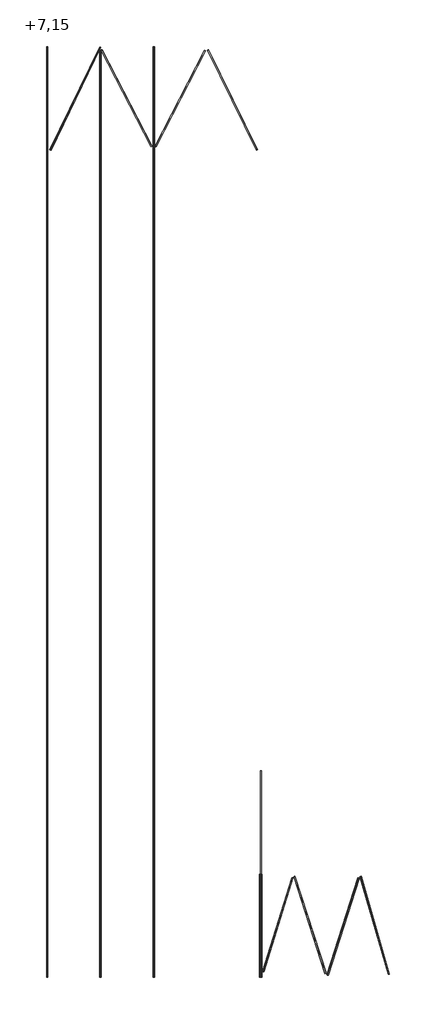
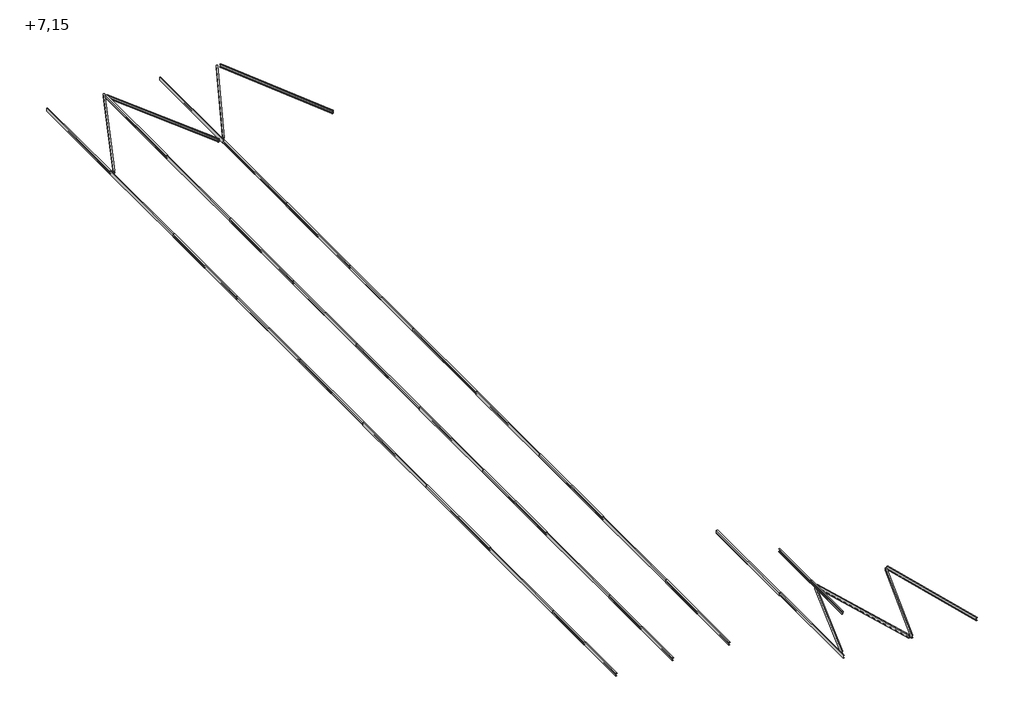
# One storey: 38 beams.
"""IFC4 building model written with IfcOpenShell, lengths in millimetres."""

import ifcopenshell
import ifcopenshell.guid

model = None  # the IFC model being written
_history = None  # IfcOwnerHistory: only IFC2X3 demands one
_inside = {}  # id of a spatial element -> (the spatial element, [elements in it])
_under = {}  # id of a project, library or spatial element -> (it, [spatial elements below it])
_declared = {}  # id of a project -> (the project, [libraries it declares])
_typed = {}  # id of a type object -> (the type object, [elements of that type])
_made_of = {}  # id of a material, layer set ... -> (it, [elements and type objects made of it])


def new_model(schema):
    """Start an empty IFC model of exactly this schema.

    Asked for "IFC4X3", IfcOpenShell would pick the latest addendum, in which some entities
    have other attributes; the version numbers below select the first issue.
    IFC2X3 requires an IfcOwnerHistory on every rooted entity: one is made here for all.
    """
    global model, _history
    if schema == "IFC4X3":
        model = ifcopenshell.file(schema_version=(4, 3, 0, 0))
    else:
        model = ifcopenshell.file(schema=schema)
    _inside.clear()
    _under.clear()
    _declared.clear()
    _typed.clear()
    _made_of.clear()
    _history = None
    if model.schema == "IFC2X3":
        org = make("IfcOrganization", Name="unknown")
        user = make(
            "IfcPersonAndOrganization",
            ThePerson=make("IfcPerson", FamilyName="unknown"),
            TheOrganization=org,
        )
        app = make(
            "IfcApplication",
            ApplicationDeveloper=org,
            Version="unknown",
            ApplicationFullName="unknown",
            ApplicationIdentifier="unknown",
        )
        _history = make(
            "IfcOwnerHistory",
            OwningUser=user,
            OwningApplication=app,
            ChangeAction="ADDED",
            CreationDate=0,
        )
    return model


def make(cls, **values):
    """One entity of the class cls with the attributes given. An attribute that is None is left unset."""
    return model.create_entity(
        cls, **{name: value for name, value in values.items() if value is not None}
    )


def rooted(cls, **values):
    """An entity with a GlobalId (a new one), such as an element, a storey or a relation."""
    return make(cls, GlobalId=ifcopenshell.guid.new(), OwnerHistory=_history, **values)


def si_unit(unit_type, name, prefix=None):
    """IfcSIUnit, for example si_unit("LENGTHUNIT", "METRE", prefix="MILLI")."""
    return make("IfcSIUnit", UnitType=unit_type, Prefix=prefix, Name=name)


def assignment(units):
    """IfcUnitAssignment: the units of a project."""
    return None if units is None else make("IfcUnitAssignment", Units=units)


def point(xyz):
    """IfcCartesianPoint."""
    return None if xyz is None else make("IfcCartesianPoint", Coordinates=xyz)


def direction(xyz):
    """IfcDirection."""
    return None if xyz is None else make("IfcDirection", DirectionRatios=xyz)


def frame(location, z_axis=None, x_axis=None):
    """IfcAxis2Placement3D, a coordinate frame: its origin and axes. An axis left out is left unset."""
    return make(
        "IfcAxis2Placement3D",
        Location=point(location),
        Axis=direction(z_axis),
        RefDirection=direction(x_axis),
    )


def frame_2d(location, x_axis=None):
    """IfcAxis2Placement2D, a coordinate frame in the plane: its origin and x axis."""
    return make(
        "IfcAxis2Placement2D", Location=point(location), RefDirection=direction(x_axis)
    )


def origin():
    """The frame at (0, 0, 0) with its axes left unset."""
    return frame((0.0, 0.0, 0.0))


def place(relative_to, where):
    """IfcLocalPlacement: puts the frame where relative to a parent placement (None: the world)."""
    return make(
        "IfcLocalPlacement", PlacementRelTo=relative_to, RelativePlacement=where
    )


def context(
    kind, dimensions, precision=None, world=None, true_north=None, identifier=None
):
    """IfcGeometricRepresentationContext, for example the 3D "Model" context."""
    return make(
        "IfcGeometricRepresentationContext",
        ContextIdentifier=identifier,
        ContextType=kind,
        CoordinateSpaceDimension=dimensions,
        Precision=precision,
        WorldCoordinateSystem=world,
        TrueNorth=true_north,
    )


def project(units=None, contexts=None):
    """IfcProject with its units and contexts."""
    return rooted(
        "IfcProject",
        Name="project",
        RepresentationContexts=contexts,
        UnitsInContext=assignment(units),
    )


def spatial(cls, under=None, at=None, **own):
    """A site, building, storey or space (cls), placed at a placement, below another one or the project."""
    s = rooted(cls, ObjectPlacement=at, **own)
    if under is not None:
        _under.setdefault(under.id(), (under, []))[1].append(s)
    return s


def polyline(points):
    """IfcPolyline through the points."""
    return make("IfcPolyline", Points=[point(p) for p in points])


def circle_curve(where, radius):
    """IfcCircle in the frame where."""
    return make("IfcCircle", Position=where, Radius=radius)


def trimmed(basis, trim1, trim2, sense, master):
    """IfcTrimmedCurve: the piece of a basis curve between two trims."""
    return make(
        "IfcTrimmedCurve",
        BasisCurve=basis,
        Trim1=trim1,
        Trim2=trim2,
        SenseAgreement=sense,
        MasterRepresentation=master,
    )


def segment(curve, same_sense, transition):
    """IfcCompositeCurveSegment."""
    return make(
        "IfcCompositeCurveSegment",
        Transition=transition,
        SameSense=same_sense,
        ParentCurve=curve,
    )


def composite_curve(segments, self_intersect=None):
    """IfcCompositeCurve: segments joined end to end."""
    return make("IfcCompositeCurve", Segments=segments, SelfIntersect=self_intersect)


def outline(outer, holes=None, kind="AREA"):
    """IfcArbitraryClosedProfileDef: a profile drawn as a closed curve; with holes, ...WithVoids."""
    if holes is None:
        return make("IfcArbitraryClosedProfileDef", ProfileType=kind, OuterCurve=outer)
    return make(
        "IfcArbitraryProfileDefWithVoids",
        ProfileType=kind,
        OuterCurve=outer,
        InnerCurves=holes,
    )


def extrude(swept, where, along, depth):
    """IfcExtrudedAreaSolid: the profile swept, set in the frame where, extruded along a direction by depth."""
    return make(
        "IfcExtrudedAreaSolid",
        SweptArea=swept,
        Position=where,
        ExtrudedDirection=direction(along),
        Depth=depth,
    )


def shape(context_of_items, identifier, shape_type, items):
    """IfcShapeRepresentation: the items that make up one representation, for example the "Body"."""
    return make(
        "IfcShapeRepresentation",
        ContextOfItems=context_of_items,
        RepresentationIdentifier=identifier,
        RepresentationType=shape_type,
        Items=items,
    )


def source(mapping_origin, context_of_items, identifier, shape_type, items):
    """IfcRepresentationMap: a shape defined once, which mapped items show again and again."""
    return make(
        "IfcRepresentationMap",
        MappingOrigin=mapping_origin,
        MappedRepresentation=shape(context_of_items, identifier, shape_type, items),
    )


def transform(
    local_origin,
    x_axis=None,
    y_axis=None,
    z_axis=None,
    scale=None,
    scale2=None,
    scale3=None,
    uniform=True,
):
    """IfcCartesianTransformationOperator3D, or its non-uniform kind. x_axis, y_axis, z_axis: its Axis1, 2, 3."""
    if uniform:
        return make(
            "IfcCartesianTransformationOperator3D",
            Axis1=direction(x_axis),
            Axis2=direction(y_axis),
            LocalOrigin=point(local_origin),
            Scale=scale,
            Axis3=direction(z_axis),
        )
    return make(
        "IfcCartesianTransformationOperator3DnonUniform",
        Axis1=direction(x_axis),
        Axis2=direction(y_axis),
        LocalOrigin=point(local_origin),
        Scale=scale,
        Axis3=direction(z_axis),
        Scale2=scale2,
        Scale3=scale3,
    )


def mapped(mapping_source, mapping_target):
    """IfcMappedItem: shows the shape of a source again, moved by a transform."""
    return make(
        "IfcMappedItem", MappingSource=mapping_source, MappingTarget=mapping_target
    )


def made_of(thing, what):
    """Note that an element or type object is made of a material, layer set ...; save() writes the relation."""
    if what is not None:
        _made_of.setdefault(what.id(), (what, []))[1].append(thing)
    return thing


def element(
    cls,
    number,
    at=None,
    inside=None,
    cuts=None,
    type_object=None,
    material=None,
    context=None,
    identifier="Body",
    shape_type=None,
    held_by="IfcProductDefinitionShape",
    body=None,
    shapes=None,
    **own,
):
    """One element of the class cls, such as IfcWall. Its Tag is "e" and its number.

    at: its placement. inside: the storey or other place that contains it. cuts: it is an
    opening in that element (IfcRelVoidsElement). A single representation is given by context,
    identifier, shape_type and body (its items); several are given by shapes. held_by: the class
    of the entity that holds the representations. save() writes the other relations.
    """
    e = rooted(cls, Tag="e%d" % number, ObjectPlacement=at, **own)
    if body is not None:
        shapes = [shape(context, identifier, shape_type, body)]
    if shapes is not None:
        e.Representation = make(held_by, Representations=shapes)
    if inside is not None:
        _inside.setdefault(inside.id(), (inside, []))[1].append(e)
    if cuts is not None:
        rooted(
            "IfcRelVoidsElement", RelatingBuildingElement=cuts, RelatedOpeningElement=e
        )
    if type_object is not None:
        _typed.setdefault(type_object.id(), (type_object, []))[1].append(e)
    return made_of(e, material)


def aggregate(whole, parts):
    """IfcRelAggregates: a whole, such as a stair, and the parts it consists of."""
    return rooted("IfcRelAggregates", RelatingObject=whole, RelatedObjects=parts)


def save(model, path):
    """Write the relations noted so far, then the file.

    IfcRelAggregates (storeys below a building ...), IfcRelContainedInSpatialStructure (elements
    in a storey), IfcRelDefinesByType, IfcRelAssociatesMaterial and IfcRelDeclares: one each for
    every whole, place, type object, material and project.
    """
    for whole, parts in _under.values():
        aggregate(whole, parts)
    for where, things in _inside.values():
        rooted(
            "IfcRelContainedInSpatialStructure",
            RelatedElements=things,
            RelatingStructure=where,
        )
    for kind, things in _typed.values():
        rooted("IfcRelDefinesByType", RelatedObjects=things, RelatingType=kind)
    for what, things in _made_of.values():
        rooted("IfcRelAssociatesMaterial", RelatedObjects=things, RelatingMaterial=what)
    for by, libraries in _declared.values():
        rooted("IfcRelDeclares", RelatingContext=by, RelatedDefinitions=libraries)
    model.write(path)


def c160_6856dfb5(model_context):
    return source(origin(), model_context, "Body", "SweptSolid", [
        extrude(outline(composite_curve([segment(polyline([(18.4, 80.0), (18.4, -80.0), (-46.6, -80.0)]), True, "CONTINUOUS"), segment(trimmed(circle_curve(frame_2d((-36.1, -80.0)), 10.5), [point((-46.6, -80.0))], [point((-36.1, -69.5))], False, "CARTESIAN"), True, "CONTINUOUS"), segment(polyline([(-36.1, -69.5), (10.9, -62.0559313), (10.9, 62.0559313), (-36.1, 69.5)]), True, "CONTINUOUS"), segment(trimmed(circle_curve(frame_2d((-36.1, 80.0)), 10.5), [point((-36.1, 69.5))], [point((-46.6, 80.0))], False, "CARTESIAN"), True, "CONTINUOUS"), segment(polyline([(-46.6, 80.0), (18.4, 80.0)]), True, "CONTINUOUS")], self_intersect=False)), frame((-3000.0, 0.0, 0.0), z_axis=(1.0, 0.0, 0.0), x_axis=(0.0, 1.0, 0.0)), (0.0, 0.0, 1.0), 5987.2999994),
    ])


def c160_33551c21(model_context):
    return source(origin(), model_context, "Body", "SweptSolid", [
        extrude(outline(composite_curve([segment(polyline([(18.4, 80.0), (18.4, -80.0), (-46.6, -80.0)]), True, "CONTINUOUS"), segment(trimmed(circle_curve(frame_2d((-36.1, -80.0)), 10.5), [point((-46.6, -80.0))], [point((-36.1, -69.5))], False, "CARTESIAN"), True, "CONTINUOUS"), segment(polyline([(-36.1, -69.5), (10.9, -62.0559313), (10.9, 62.0559313), (-36.1, 69.5)]), True, "CONTINUOUS"), segment(trimmed(circle_curve(frame_2d((-36.1, 80.0)), 10.5), [point((-36.1, 69.5))], [point((-46.6, 80.0))], False, "CARTESIAN"), True, "CONTINUOUS"), segment(polyline([(-46.6, 80.0), (18.4, 80.0)]), True, "CONTINUOUS")], self_intersect=False)), frame((-2987.2999994, 0.0, 0.0), z_axis=(1.0, 0.0, 0.0), x_axis=(0.0, 1.0, 0.0)), (0.0, 0.0, 1.0), 5987.2999994),
    ])


def c160_118c6426(model_context):
    return source(origin(), model_context, "Body", "SweptSolid", [
        extrude(outline(composite_curve([segment(polyline([(18.4, 80.0), (18.4, -80.0), (-46.6, -80.0)]), True, "CONTINUOUS"), segment(trimmed(circle_curve(frame_2d((-36.1, -80.0)), 10.5), [point((-46.6, -80.0))], [point((-36.1, -69.5))], False, "CARTESIAN"), True, "CONTINUOUS"), segment(polyline([(-36.1, -69.5), (10.9, -62.0559313), (10.9, 62.0559313), (-36.1, 69.5)]), True, "CONTINUOUS"), segment(trimmed(circle_curve(frame_2d((-36.1, 80.0)), 10.5), [point((-36.1, 69.5))], [point((-46.6, 80.0))], False, "CARTESIAN"), True, "CONTINUOUS"), segment(polyline([(-46.6, 80.0), (18.4, 80.0)]), True, "CONTINUOUS")], self_intersect=False)), frame((-3000.0, 0.0, 0.0), z_axis=(1.0, 0.0, 0.0), x_axis=(0.0, 1.0, 0.0)), (0.0, 0.0, 1.0), 5965.9042199),
    ])


def c160_03c89e93(model_context):
    return source(origin(), model_context, "Body", "SweptSolid", [
        extrude(outline(composite_curve([segment(polyline([(18.4, 80.0), (18.4, -80.0), (-46.6, -80.0)]), True, "CONTINUOUS"), segment(trimmed(circle_curve(frame_2d((-36.1, -80.0)), 10.5), [point((-46.6, -80.0))], [point((-36.1, -69.5))], False, "CARTESIAN"), True, "CONTINUOUS"), segment(polyline([(-36.1, -69.5), (10.9, -62.0559313), (10.9, 62.0559313), (-36.1, 69.5)]), True, "CONTINUOUS"), segment(trimmed(circle_curve(frame_2d((-36.1, 80.0)), 10.5), [point((-36.1, 69.5))], [point((-46.6, 80.0))], False, "CARTESIAN"), True, "CONTINUOUS"), segment(polyline([(-46.6, 80.0), (18.4, 80.0)]), True, "CONTINUOUS")], self_intersect=False)), frame((-3011.3303171, 0.0, 0.0), z_axis=(1.0, 0.0, 0.0), x_axis=(0.0, 1.0, 0.0)), (0.0, 0.0, 1.0), 6011.3303171),
    ])


def c160_e8eaf836(model_context):
    return source(origin(), model_context, "Body", "SweptSolid", [
        extrude(outline(composite_curve([segment(polyline([(18.4, 80.0), (18.4, -80.0), (-46.6, -80.0)]), True, "CONTINUOUS"), segment(trimmed(circle_curve(frame_2d((-36.1, -80.0)), 10.5), [point((-46.6, -80.0))], [point((-36.1, -69.5))], False, "CARTESIAN"), True, "CONTINUOUS"), segment(polyline([(-36.1, -69.5), (10.9, -62.0559313), (10.9, 62.0559313), (-36.1, 69.5)]), True, "CONTINUOUS"), segment(trimmed(circle_curve(frame_2d((-36.1, 80.0)), 10.5), [point((-36.1, 69.5))], [point((-46.6, 80.0))], False, "CARTESIAN"), True, "CONTINUOUS"), segment(polyline([(-46.6, 80.0), (18.4, 80.0)]), True, "CONTINUOUS")], self_intersect=False)), frame((-3123.2590457, 0.0, 0.0), z_axis=(1.0, 0.0, 0.0), x_axis=(0.0, 1.0, 0.0)), (0.0, 0.0, 1.0), 6461.0648671),
    ])


def c160_f2125c67(model_context):
    return source(origin(), model_context, "Body", "SweptSolid", [
        extrude(outline(composite_curve([segment(polyline([(18.4, 80.0), (18.4, -80.0), (-46.6, -80.0)]), True, "CONTINUOUS"), segment(trimmed(circle_curve(frame_2d((-36.1, -80.0)), 10.5), [point((-46.6, -80.0))], [point((-36.1, -69.5))], False, "CARTESIAN"), True, "CONTINUOUS"), segment(polyline([(-36.1, -69.5), (10.9, -62.0559313), (10.9, 62.0559313), (-36.1, 69.5)]), True, "CONTINUOUS"), segment(trimmed(circle_curve(frame_2d((-36.1, 80.0)), 10.5), [point((-36.1, 69.5))], [point((-46.6, 80.0))], False, "CARTESIAN"), True, "CONTINUOUS"), segment(polyline([(-46.6, 80.0), (18.4, 80.0)]), True, "CONTINUOUS")], self_intersect=False)), frame((-3172.629097, 0.0, 0.0), z_axis=(1.0, 0.0, 0.0), x_axis=(0.0, 1.0, 0.0)), (0.0, 0.0, 1.0), 6322.798655),
    ])


def c160_19cece36(model_context):
    return source(origin(), model_context, "Body", "SweptSolid", [
        extrude(outline(composite_curve([segment(polyline([(18.4, 80.0), (18.4, -80.0), (-46.6, -80.0)]), True, "CONTINUOUS"), segment(trimmed(circle_curve(frame_2d((-36.1, -80.0)), 10.5), [point((-46.6, -80.0))], [point((-36.1, -69.5))], False, "CARTESIAN"), True, "CONTINUOUS"), segment(polyline([(-36.1, -69.5), (10.9, -62.0559313), (10.9, 62.0559313), (-36.1, 69.5)]), True, "CONTINUOUS"), segment(trimmed(circle_curve(frame_2d((-36.1, 80.0)), 10.5), [point((-36.1, 69.5))], [point((-46.6, 80.0))], False, "CARTESIAN"), True, "CONTINUOUS"), segment(polyline([(-46.6, 80.0), (18.4, 80.0)]), True, "CONTINUOUS")], self_intersect=False)), frame((-3148.1164529, 0.0, 0.0), z_axis=(1.0, 0.0, 0.0), x_axis=(0.0, 1.0, 0.0)), (0.0, 0.0, 1.0), 6285.298655),
    ])


def c160_53ad175f(model_context):
    return source(origin(), model_context, "Body", "SweptSolid", [
        extrude(outline(composite_curve([segment(polyline([(18.4, 80.0), (18.4, -80.0), (-46.6, -80.0)]), True, "CONTINUOUS"), segment(trimmed(circle_curve(frame_2d((-36.1, -80.0)), 10.5), [point((-46.6, -80.0))], [point((-36.1, -69.5))], False, "CARTESIAN"), True, "CONTINUOUS"), segment(polyline([(-36.1, -69.5), (10.9, -62.0559313), (10.9, 62.0559313), (-36.1, 69.5)]), True, "CONTINUOUS"), segment(trimmed(circle_curve(frame_2d((-36.1, 80.0)), 10.5), [point((-36.1, 69.5))], [point((-46.6, 80.0))], False, "CARTESIAN"), True, "CONTINUOUS"), segment(polyline([(-46.6, 80.0), (18.4, 80.0)]), True, "CONTINUOUS")], self_intersect=False)), frame((-3000.0, 0.0, 0.0), z_axis=(1.0, 0.0, 0.0), x_axis=(0.0, 1.0, 0.0)), (0.0, 0.0, 1.0), 5795.6407568),
    ])


def c160_e21037ba(model_context):
    return source(origin(), model_context, "Body", "SweptSolid", [
        extrude(outline(composite_curve([segment(polyline([(18.4, 80.0), (18.4, -80.0), (-46.6, -80.0)]), True, "CONTINUOUS"), segment(trimmed(circle_curve(frame_2d((-36.1, -80.0)), 10.5), [point((-46.6, -80.0))], [point((-36.1, -69.5))], False, "CARTESIAN"), True, "CONTINUOUS"), segment(polyline([(-36.1, -69.5), (10.9, -62.0559313), (10.9, 62.0559313), (-36.1, 69.5)]), True, "CONTINUOUS"), segment(trimmed(circle_curve(frame_2d((-36.1, 80.0)), 10.5), [point((-36.1, 69.5))], [point((-46.6, 80.0))], False, "CARTESIAN"), True, "CONTINUOUS"), segment(polyline([(-46.6, 80.0), (18.4, 80.0)]), True, "CONTINUOUS")], self_intersect=False)), frame((-3333.84533, 0.0, 0.0), z_axis=(1.0, 0.0, 0.0), x_axis=(0.0, 1.0, 0.0)), (0.0, 0.0, 1.0), 6629.1665092),
    ])


def c160_97cef8d6(model_context):
    return source(origin(), model_context, "Body", "SweptSolid", [
        extrude(outline(composite_curve([segment(polyline([(18.4, 80.0), (18.4, -80.0), (-46.6, -80.0)]), True, "CONTINUOUS"), segment(trimmed(circle_curve(frame_2d((-36.1, -80.0)), 10.5), [point((-46.6, -80.0))], [point((-36.1, -69.5))], False, "CARTESIAN"), True, "CONTINUOUS"), segment(polyline([(-36.1, -69.5), (10.9, -62.0559313), (10.9, 62.0559313), (-36.1, 69.5)]), True, "CONTINUOUS"), segment(trimmed(circle_curve(frame_2d((-36.1, 80.0)), 10.5), [point((-36.1, 69.5))], [point((-46.6, 80.0))], False, "CARTESIAN"), True, "CONTINUOUS"), segment(polyline([(-46.6, 80.0), (18.4, 80.0)]), True, "CONTINUOUS")], self_intersect=False)), frame((-2992.5, 0.0, 0.0), z_axis=(1.0, 0.0, 0.0), x_axis=(0.0, 1.0, 0.0)), (0.0, 0.0, 1.0), 5972.2999994),
    ])


def c160_3778965b(model_context):
    return source(origin(), model_context, "Body", "SweptSolid", [
        extrude(outline(composite_curve([segment(polyline([(18.4, 80.0), (18.4, -80.0), (-46.6, -80.0)]), True, "CONTINUOUS"), segment(trimmed(circle_curve(frame_2d((-36.1, -80.0)), 10.5), [point((-46.6, -80.0))], [point((-36.1, -69.5))], False, "CARTESIAN"), True, "CONTINUOUS"), segment(polyline([(-36.1, -69.5), (10.9, -62.0559313), (10.9, 62.0559313), (-36.1, 69.5)]), True, "CONTINUOUS"), segment(trimmed(circle_curve(frame_2d((-36.1, 80.0)), 10.5), [point((-36.1, 69.5))], [point((-46.6, 80.0))], False, "CARTESIAN"), True, "CONTINUOUS"), segment(polyline([(-46.6, 80.0), (18.4, 80.0)]), True, "CONTINUOUS")], self_intersect=False)), frame((-2916.6140727, 0.0, 0.0), z_axis=(1.0, 0.0, 0.0), x_axis=(0.0, 1.0, 0.0)), (0.0, 0.0, 1.0), 5708.0593181),
    ])


def c160_3b37e5dd(model_context):
    return source(origin(), model_context, "Body", "SweptSolid", [
        extrude(outline(composite_curve([segment(polyline([(18.4, 80.0), (18.4, -80.0), (-46.6, -80.0)]), True, "CONTINUOUS"), segment(trimmed(circle_curve(frame_2d((-36.1, -80.0)), 10.5), [point((-46.6, -80.0))], [point((-36.1, -69.5))], False, "CARTESIAN"), True, "CONTINUOUS"), segment(polyline([(-36.1, -69.5), (10.9, -62.0559313), (10.9, 62.0559313), (-36.1, 69.5)]), True, "CONTINUOUS"), segment(trimmed(circle_curve(frame_2d((-36.1, 80.0)), 10.5), [point((-36.1, 69.5))], [point((-46.6, 80.0))], False, "CARTESIAN"), True, "CONTINUOUS"), segment(polyline([(-46.6, 80.0), (18.4, 80.0)]), True, "CONTINUOUS")], self_intersect=False)), frame((-2992.6297744, 0.0, 0.0), z_axis=(1.0, 0.0, 0.0), x_axis=(0.0, 1.0, 0.0)), (0.0, 0.0, 1.0), 5908.9069849),
    ])


def c160_27ff9c8f(model_context):
    return source(origin(), model_context, "Body", "SweptSolid", [
        extrude(outline(composite_curve([segment(polyline([(18.4, 80.0), (18.4, -80.0), (-46.6, -80.0)]), True, "CONTINUOUS"), segment(trimmed(circle_curve(frame_2d((-36.1, -80.0)), 10.5), [point((-46.6, -80.0))], [point((-36.1, -69.5))], False, "CARTESIAN"), True, "CONTINUOUS"), segment(polyline([(-36.1, -69.5), (10.9, -62.0559313), (10.9, 62.0559313), (-36.1, 69.5)]), True, "CONTINUOUS"), segment(trimmed(circle_curve(frame_2d((-36.1, 80.0)), 10.5), [point((-36.1, 69.5))], [point((-46.6, 80.0))], False, "CARTESIAN"), True, "CONTINUOUS"), segment(polyline([(-46.6, 80.0), (18.4, 80.0)]), True, "CONTINUOUS")], self_intersect=False)), frame((-2917.3982353, 0.0, 0.0), z_axis=(1.0, 0.0, 0.0), x_axis=(0.0, 1.0, 0.0)), (0.0, 0.0, 1.0), 5910.1267431),
    ])


def c160_9241be16(model_context):
    return source(origin(), model_context, "Body", "SweptSolid", [
        extrude(outline(composite_curve([segment(polyline([(18.4, 80.0), (18.4, -80.0), (-46.6, -80.0)]), True, "CONTINUOUS"), segment(trimmed(circle_curve(frame_2d((-36.1, -80.0)), 10.5), [point((-46.6, -80.0))], [point((-36.1, -69.5))], False, "CARTESIAN"), True, "CONTINUOUS"), segment(polyline([(-36.1, -69.5), (10.9, -62.0559313), (10.9, 62.0559313), (-36.1, 69.5)]), True, "CONTINUOUS"), segment(trimmed(circle_curve(frame_2d((-36.1, 80.0)), 10.5), [point((-36.1, 69.5))], [point((-46.6, 80.0))], False, "CARTESIAN"), True, "CONTINUOUS"), segment(polyline([(-46.6, 80.0), (18.4, 80.0)]), True, "CONTINUOUS")], self_intersect=False)), frame((-2963.0464211, 0.0, 0.0), z_axis=(1.0, 0.0, 0.0), x_axis=(0.0, 1.0, 0.0)), (0.0, 0.0, 1.0), 5898.1421079),
    ])


def c160_ed46d0f5(model_context):
    return source(origin(), model_context, "Body", "SweptSolid", [
        extrude(outline(composite_curve([segment(polyline([(18.4, 80.0), (18.4, -80.0), (-46.6, -80.0)]), True, "CONTINUOUS"), segment(trimmed(circle_curve(frame_2d((-36.1, -80.0)), 10.5), [point((-46.6, -80.0))], [point((-36.1, -69.5))], False, "CARTESIAN"), True, "CONTINUOUS"), segment(polyline([(-36.1, -69.5), (10.9, -62.0559313), (10.9, 62.0559313), (-36.1, 69.5)]), True, "CONTINUOUS"), segment(trimmed(circle_curve(frame_2d((-36.1, 80.0)), 10.5), [point((-36.1, 69.5))], [point((-46.6, 80.0))], False, "CARTESIAN"), True, "CONTINUOUS"), segment(polyline([(-46.6, 80.0), (18.4, 80.0)]), True, "CONTINUOUS")], self_intersect=False)), frame((-2992.5, 0.0, 0.0), z_axis=(1.0, 0.0, 0.0), x_axis=(0.0, 1.0, 0.0)), (0.0, 0.0, 1.0), 5992.091105),
    ])


model = new_model("IFC4")

# Units and contexts
model_context = context("Model", 3, world=origin())
ifc_project = project(units=[si_unit("LENGTHUNIT", "METRE", prefix="MILLI")], contexts=[model_context])

# Site, building, storey
site = spatial("IfcSite", under=ifc_project)
building = spatial("IfcBuilding", under=site)
storey = spatial("IfcBuildingStorey", under=building, Name="+7,15", Elevation=7150.0)

# Beams
placement = place(None, origin())
element("IfcBeam", 1, ObjectType="RPLN C - Ceowniki normalne : C160", at=placement, inside=storey, context=model_context, shape_type="SweptSolid", body=[
    extrude(outline(composite_curve([segment(polyline([(7713.933711, -8310.6980797), (7554.2257296, -8320.3604126), (7550.3004069, -8255.4790451)]), True, "CONTINUOUS"), segment(trimmed(circle_curve(frame_2d((7550.9344975, -8265.9598814)), 10.5), [point((7550.3004069, -8255.4790451))], [point((7561.4153337, -8265.3257908))], False, "CARTESIAN"), True, "CONTINUOUS"), segment(polyline([(7561.4153337, -8265.3257908), (7571.6841264, -8311.7904662), (7695.5694705, -8304.2954029), (7700.1616426, -8256.9316391)]), True, "CONTINUOUS"), segment(trimmed(circle_curve(frame_2d((7710.6424789, -8256.2975485)), 10.5), [point((7700.1616426, -8256.9316391))], [point((7710.0083883, -8245.8167123))], False, "CARTESIAN"), True, "CONTINUOUS"), segment(polyline([(7710.0083883, -8245.8167123), (7713.933711, -8310.6980797)]), True, "CONTINUOUS")], self_intersect=False)), frame((0.0, 11087.5183415, 0.0), z_axis=(0.0, 1.0, 0.0), x_axis=(0.0, 0.0, 1.0)), (0.0, 0.0, 1.0), 6000.0),
])
c160_shape = c160_6856dfb5(model_context)
element("IfcBeam", 2, ObjectType="RPLN C - Ceowniki normalne : C160", at=placement, inside=storey, context=model_context, shape_type="MappedRepresentation", body=[
    mapped(c160_shape, transform((-8297.1628283, -33912.4816585, 7632.968552), x_axis=(0.0, 1.0, 0.0), y_axis=(-0.9981748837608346, 0.0, 0.06038958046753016), z_axis=(0.06038958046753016, 0.0, 0.9981748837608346))),
])
element("IfcBeam", 3, ObjectType="RPLN C - Ceowniki normalne : C160", at=placement, inside=storey, context=model_context, shape_type="MappedRepresentation", body=[
    mapped(c160_shape, transform((-5201.8225137, -33912.4816585, 7445.700463), x_axis=(0.0, 1.0, 0.0), y_axis=(-0.9981748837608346, 0.0, 0.06038958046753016), z_axis=(0.06038958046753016, 0.0, 0.9981748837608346))),
])
element("IfcBeam", 4, ObjectType="RPLN C - Ceowniki normalne : C160", at=placement, inside=storey, context=model_context, shape_type="MappedRepresentation", body=[
    mapped(c160_shape, transform((-2106.4821992, -33912.4816585, 7258.432374), x_axis=(0.0, 1.0, 0.0), y_axis=(-0.9981748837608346, 0.0, 0.06038958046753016), z_axis=(0.06038958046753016, 0.0, 0.9981748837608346))),
])
c160_2_shape = c160_33551c21(model_context)
element("IfcBeam", 5, ObjectType="RPLN C - Ceowniki normalne : C160", at=placement, inside=storey, context=model_context, shape_type="MappedRepresentation", body=[
    mapped(c160_2_shape, transform((4109.7867288, -33912.4816585, 6882.3481038), x_axis=(0.0, -1.0, 0.0), y_axis=(0.9981748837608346, 0.0, -0.06038958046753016), z_axis=(0.06038958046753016, 0.0, 0.9981748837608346))),
])
element("IfcBeam", 6, ObjectType="RPLN C - Ceowniki normalne : C160", at=placement, inside=storey, context=model_context, shape_type="MappedRepresentation", body=[
    mapped(c160_shape, transform((-8297.1628283, -27912.4816585, 7632.968552), x_axis=(0.0, 1.0, 0.0), y_axis=(-0.9981748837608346, 0.0, 0.06038958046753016), z_axis=(0.06038958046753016, 0.0, 0.9981748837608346))),
])
element("IfcBeam", 7, ObjectType="RPLN C - Ceowniki normalne : C160", at=placement, inside=storey, context=model_context, shape_type="MappedRepresentation", body=[
    mapped(c160_shape, transform((-5201.8225137, -27912.4816585, 7445.700463), x_axis=(0.0, 1.0, 0.0), y_axis=(-0.9981748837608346, 0.0, 0.06038958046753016), z_axis=(0.06038958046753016, 0.0, 0.9981748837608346))),
])
element("IfcBeam", 8, ObjectType="RPLN C - Ceowniki normalne : C160", at=placement, inside=storey, context=model_context, shape_type="MappedRepresentation", body=[
    mapped(c160_shape, transform((-2106.4821992, -27912.4816585, 7258.432374), x_axis=(0.0, 1.0, 0.0), y_axis=(-0.9981748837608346, 0.0, 0.06038958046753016), z_axis=(0.06038958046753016, 0.0, 0.9981748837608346))),
])
element("IfcBeam", 9, ObjectType="RPLN C - Ceowniki normalne : C160", at=placement, inside=storey, context=model_context, shape_type="MappedRepresentation", body=[
    mapped(c160_shape, transform((-8297.1628283, -21912.4816585, 7632.968552), x_axis=(0.0, 1.0, 0.0), y_axis=(-0.9981748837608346, 0.0, 0.06038958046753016), z_axis=(0.06038958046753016, 0.0, 0.9981748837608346))),
])
element("IfcBeam", 10, ObjectType="RPLN C - Ceowniki normalne : C160", at=placement, inside=storey, context=model_context, shape_type="MappedRepresentation", body=[
    mapped(c160_shape, transform((-5201.8225137, -21912.4816585, 7445.700463), x_axis=(0.0, 1.0, 0.0), y_axis=(-0.9981748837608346, 0.0, 0.06038958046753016), z_axis=(0.06038958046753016, 0.0, 0.9981748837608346))),
])
element("IfcBeam", 11, ObjectType="RPLN C - Ceowniki normalne : C160", at=placement, inside=storey, context=model_context, shape_type="MappedRepresentation", body=[
    mapped(c160_shape, transform((-2106.4821992, -21912.4816585, 7258.432374), x_axis=(0.0, 1.0, 0.0), y_axis=(-0.9981748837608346, 0.0, 0.06038958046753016), z_axis=(0.06038958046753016, 0.0, 0.9981748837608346))),
])
element("IfcBeam", 12, ObjectType="RPLN C - Ceowniki normalne : C160", at=placement, inside=storey, context=model_context, shape_type="MappedRepresentation", body=[
    mapped(c160_shape, transform((-8297.1628283, -15912.4816585, 7632.968552), x_axis=(0.0, 1.0, 0.0), y_axis=(-0.9981748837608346, 0.0, 0.06038958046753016), z_axis=(0.06038958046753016, 0.0, 0.9981748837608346))),
])
element("IfcBeam", 13, ObjectType="RPLN C - Ceowniki normalne : C160", at=placement, inside=storey, context=model_context, shape_type="MappedRepresentation", body=[
    mapped(c160_shape, transform((-5201.8225137, -15912.4816585, 7445.700463), x_axis=(0.0, 1.0, 0.0), y_axis=(-0.9981748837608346, 0.0, 0.06038958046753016), z_axis=(0.06038958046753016, 0.0, 0.9981748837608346))),
])
element("IfcBeam", 14, ObjectType="RPLN C - Ceowniki normalne : C160", at=placement, inside=storey, context=model_context, shape_type="MappedRepresentation", body=[
    mapped(c160_shape, transform((-2106.4821992, -15912.4816585, 7258.432374), x_axis=(0.0, 1.0, 0.0), y_axis=(-0.9981748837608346, 0.0, 0.06038958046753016), z_axis=(0.06038958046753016, 0.0, 0.9981748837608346))),
])
element("IfcBeam", 15, ObjectType="RPLN C - Ceowniki normalne : C160", at=placement, inside=storey, context=model_context, shape_type="MappedRepresentation", body=[
    mapped(c160_shape, transform((-8297.1628283, -9912.4816585, 7632.968552), x_axis=(0.0, 1.0, 0.0), y_axis=(-0.9981748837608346, 0.0, 0.06038958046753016), z_axis=(0.06038958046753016, 0.0, 0.9981748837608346))),
])
element("IfcBeam", 16, ObjectType="RPLN C - Ceowniki normalne : C160", at=placement, inside=storey, context=model_context, shape_type="MappedRepresentation", body=[
    mapped(c160_shape, transform((-5201.8225137, -9912.4816585, 7445.700463), x_axis=(0.0, 1.0, 0.0), y_axis=(-0.9981748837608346, 0.0, 0.06038958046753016), z_axis=(0.06038958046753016, 0.0, 0.9981748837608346))),
])
element("IfcBeam", 17, ObjectType="RPLN C - Ceowniki normalne : C160", at=placement, inside=storey, context=model_context, shape_type="MappedRepresentation", body=[
    mapped(c160_shape, transform((-2106.4821992, -9912.4816585, 7258.432374), x_axis=(0.0, 1.0, 0.0), y_axis=(-0.9981748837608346, 0.0, 0.06038958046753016), z_axis=(0.06038958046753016, 0.0, 0.9981748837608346))),
])
element("IfcBeam", 18, ObjectType="RPLN C - Ceowniki normalne : C160", at=placement, inside=storey, context=model_context, shape_type="MappedRepresentation", body=[
    mapped(c160_shape, transform((-8297.1628283, -3912.4816585, 7632.968552), x_axis=(0.0, 1.0, 0.0), y_axis=(-0.9981748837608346, 0.0, 0.06038958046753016), z_axis=(0.06038958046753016, 0.0, 0.9981748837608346))),
])
element("IfcBeam", 19, ObjectType="RPLN C - Ceowniki normalne : C160", at=placement, inside=storey, context=model_context, shape_type="MappedRepresentation", body=[
    mapped(c160_shape, transform((-5201.8225137, -3912.4816585, 7445.700463), x_axis=(0.0, 1.0, 0.0), y_axis=(-0.9981748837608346, 0.0, 0.06038958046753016), z_axis=(0.06038958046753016, 0.0, 0.9981748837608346))),
])
element("IfcBeam", 20, ObjectType="RPLN C - Ceowniki normalne : C160", at=placement, inside=storey, context=model_context, shape_type="MappedRepresentation", body=[
    mapped(c160_shape, transform((-2106.4821992, -3912.4816585, 7258.432374), x_axis=(0.0, 1.0, 0.0), y_axis=(-0.9981748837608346, 0.0, 0.06038958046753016), z_axis=(0.06038958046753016, 0.0, 0.9981748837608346))),
])
element("IfcBeam", 21, ObjectType="RPLN C - Ceowniki normalne : C160", at=placement, inside=storey, context=model_context, shape_type="MappedRepresentation", body=[
    mapped(c160_shape, transform((-8297.1628283, 2087.5183415, 7632.968552), x_axis=(0.0, 1.0, 0.0), y_axis=(-0.9981748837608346, 0.0, 0.06038958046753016), z_axis=(0.06038958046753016, 0.0, 0.9981748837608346))),
])
element("IfcBeam", 22, ObjectType="RPLN C - Ceowniki normalne : C160", at=placement, inside=storey, context=model_context, shape_type="MappedRepresentation", body=[
    mapped(c160_shape, transform((-5201.8225137, 2087.5183415, 7445.700463), x_axis=(0.0, 1.0, 0.0), y_axis=(-0.9981748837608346, 0.0, 0.06038958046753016), z_axis=(0.06038958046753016, 0.0, 0.9981748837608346))),
])
element("IfcBeam", 23, ObjectType="RPLN C - Ceowniki normalne : C160", at=placement, inside=storey, context=model_context, shape_type="MappedRepresentation", body=[
    mapped(c160_shape, transform((-2106.4821992, 2087.5183415, 7258.432374), x_axis=(0.0, 1.0, 0.0), y_axis=(-0.9981748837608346, 0.0, 0.06038958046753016), z_axis=(0.06038958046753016, 0.0, 0.9981748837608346))),
])
element("IfcBeam", 24, ObjectType="RPLN C - Ceowniki normalne : C160", at=placement, inside=storey, context=model_context, shape_type="MappedRepresentation", body=[
    mapped(c160_shape, transform((-8297.1628283, 8087.5183415, 7632.968552), x_axis=(0.0, 1.0, 0.0), y_axis=(-0.9981748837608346, 0.0, 0.06038958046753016), z_axis=(0.06038958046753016, 0.0, 0.9981748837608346))),
])
element("IfcBeam", 25, ObjectType="RPLN C - Ceowniki normalne : C160", at=placement, inside=storey, context=model_context, shape_type="MappedRepresentation", body=[
    mapped(c160_shape, transform((-5201.8225137, 8087.5183415, 7445.700463), x_axis=(0.0, 1.0, 0.0), y_axis=(-0.9981748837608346, 0.0, 0.06038958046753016), z_axis=(0.06038958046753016, 0.0, 0.9981748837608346))),
])
c160_3_shape = c160_118c6426(model_context)
element("IfcBeam", 26, ObjectType="RPLN C - Ceowniki normalne : C160", at=placement, inside=storey, context=model_context, shape_type="MappedRepresentation", body=[
    mapped(c160_3_shape, transform((-2106.4821992, 8087.5183415, 7258.432374), x_axis=(0.0, 1.0, 0.0), y_axis=(-0.9981748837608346, 0.0, 0.06038958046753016), z_axis=(0.06038958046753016, 0.0, 0.9981748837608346))),
])
c160_4_shape = c160_03c89e93(model_context)
element("IfcBeam", 27, ObjectType="RPLN C - Ceowniki normalne : C160", at=placement, inside=storey, context=model_context, shape_type="MappedRepresentation", body=[
    mapped(c160_4_shape, transform((-2106.4821992, 14087.5183415, 7258.432374), x_axis=(0.0, 1.0, 0.0), y_axis=(-0.9981748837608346, 0.0, 0.06038958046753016), z_axis=(0.06038958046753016, 0.0, 0.9981748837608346))),
])
c160_5_shape = c160_e8eaf836(model_context)
element("IfcBeam", 28, ObjectType="RPLN C - Ceowniki normalne : C160", at=placement, inside=storey, context=model_context, shape_type="MappedRepresentation", body=[
    mapped(c160_5_shape, transform((2447.9179082, 14087.5183415, 6958.546736), x_axis=(0.43757106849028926, -0.8987940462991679, -0.0264730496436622), y_axis=(0.8971536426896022, 0.43837114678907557, -0.05427779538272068), z_axis=(0.06038958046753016, 0.0, 0.9981748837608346))),
])
c160_6_shape = c160_f2125c67(model_context)
element("IfcBeam", 29, ObjectType="RPLN C - Ceowniki normalne : C160", at=placement, inside=storey, context=model_context, shape_type="MappedRepresentation", body=[
    mapped(c160_6_shape, transform((-3655.6198233, 14087.5183415, 7327.8107688), x_axis=(0.4582989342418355, -0.8883655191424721, -0.02772708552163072), y_axis=(0.8867441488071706, 0.4591369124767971, -0.05364802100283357), z_axis=(0.06038958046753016, 0.0, 0.9981748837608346))),
])
c160_7_shape = c160_19cece36(model_context)
element("IfcBeam", 30, ObjectType="RPLN C - Ceowniki normalne : C160", at=placement, inside=storey, context=model_context, shape_type="MappedRepresentation", body=[
    mapped(c160_7_shape, transform((-560.2795087, 14087.5183415, 7140.5426798), x_axis=(0.4582989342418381, 0.8883655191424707, -0.02772708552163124), y_axis=(-0.8867441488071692, 0.4591369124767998, 0.05364802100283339), z_axis=(0.06038958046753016, 0.0, 0.9981748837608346))),
])
c160_8_shape = c160_53ad175f(model_context)
element("IfcBeam", 31, ObjectType="RPLN C - Ceowniki normalne : C160", at=placement, inside=storey, context=model_context, shape_type="MappedRepresentation", body=[
    mapped(c160_8_shape, transform((-5201.8225137, 14087.5183415, 7445.700463), x_axis=(0.0, 1.0, 0.0), y_axis=(-0.9981748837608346, 0.0, 0.06038958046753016), z_axis=(0.06038958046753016, 0.0, 0.9981748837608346))),
])
c160_9_shape = c160_e21037ba(model_context)
element("IfcBeam", 32, ObjectType="RPLN C - Ceowniki normalne : C160", at=placement, inside=storey, context=model_context, shape_type="MappedRepresentation", body=[
    mapped(c160_9_shape, transform((-6654.7765362, 14087.5183415, 7509.2597499), x_axis=(0.43537909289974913, 0.8998617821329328, -0.02634043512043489), y_axis=(-0.8982194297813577, 0.43617516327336, 0.054342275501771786), z_axis=(0.06038958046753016, 0.0, 0.9981748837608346))),
])
c160_10_shape = c160_97cef8d6(model_context)
element("IfcBeam", 33, ObjectType="RPLN C - Ceowniki normalne : C160", at=placement, inside=storey, context=model_context, shape_type="MappedRepresentation", body=[
    mapped(c160_10_shape, transform((4123.7030851, -27912.4816585, 4309.7323616), x_axis=(0.0, 1.0, 0.0), y_axis=(-0.997461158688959, 0.0, 0.07121261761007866), z_axis=(0.07121261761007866, 0.0, 0.997461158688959))),
])
c160_11_shape = c160_3778965b(model_context)
element("IfcBeam", 34, ObjectType="RPLN C - Ceowniki normalne : C160", at=placement, inside=storey, context=model_context, shape_type="MappedRepresentation", body=[
    mapped(c160_11_shape, transform((5085.3350475, -33912.4816585, 4251.3359818), x_axis=(-0.2966964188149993, -0.9547368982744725, 0.021182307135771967), y_axis=(-0.9523129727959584, 0.29745160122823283, 0.06798931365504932), z_axis=(-0.07121261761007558, 0.0, -0.9974611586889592))),
])
c160_12_shape = c160_3b37e5dd(model_context)
element("IfcBeam", 35, ObjectType="RPLN C - Ceowniki normalne : C160", at=placement, inside=storey, context=model_context, shape_type="MappedRepresentation", body=[
    mapped(c160_12_shape, transform((6979.4074112, -33912.4816585, 4116.1108156), x_axis=(0.3052171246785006, -0.9520334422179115, -0.02179063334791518), y_axis=(-0.9496163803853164, -0.30599399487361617, 0.06779679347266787), z_axis=(-0.0712126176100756, 0.0, -0.9974611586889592))),
])
c160_13_shape = c160_27ff9c8f(model_context)
element("IfcBeam", 36, ObjectType="RPLN C - Ceowniki normalne : C160", at=placement, inside=storey, context=model_context, shape_type="MappedRepresentation", body=[
    mapped(c160_13_shape, transform((8902.86087, -33912.8150629, 3978.7880192), x_axis=(-0.305214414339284, -0.9520343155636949, 0.021790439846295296), y_axis=(-0.9496172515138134, 0.3059912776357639, 0.0677968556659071), z_axis=(-0.0712126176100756, 0.0, -0.9974611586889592))),
])
c160_14_shape = c160_9241be16(model_context)
element("IfcBeam", 37, ObjectType="RPLN C - Ceowniki normalne : C160", at=placement, inside=storey, context=model_context, shape_type="MappedRepresentation", body=[
    mapped(c160_14_shape, transform((10729.8545306, -33912.8150629, 3848.3518615), x_axis=(0.27711723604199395, -0.9606324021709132, -0.019784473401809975), y_axis=(-0.9581935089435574, -0.27782258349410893, 0.06840914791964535), z_axis=(-0.07121261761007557, 0.0, -0.9974611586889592))),
])
c160_15_shape = c160_ed46d0f5(model_context)
element("IfcBeam", 38, ObjectType="RPLN C - Ceowniki normalne : C160", at=placement, inside=storey, context=model_context, shape_type="MappedRepresentation", body=[
    mapped(c160_15_shape, transform((4153.047568, -33912.4816585, 4317.8955979), x_axis=(0.0, -1.0, 0.0), y_axis=(-0.9974611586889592, 0.0, 0.07121261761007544), z_axis=(-0.07121261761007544, 0.0, -0.9974611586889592))),
])

save(model, "model.ifc")
